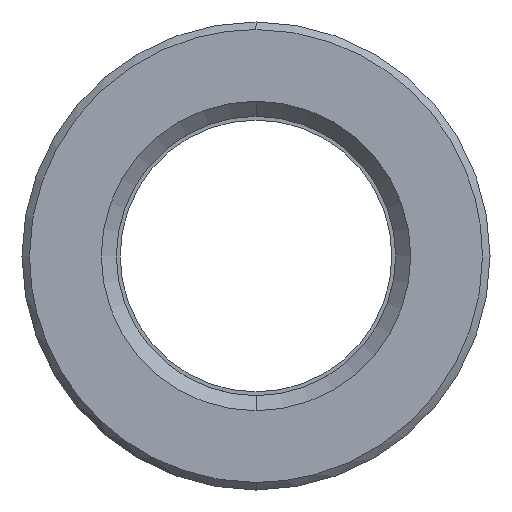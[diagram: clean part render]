
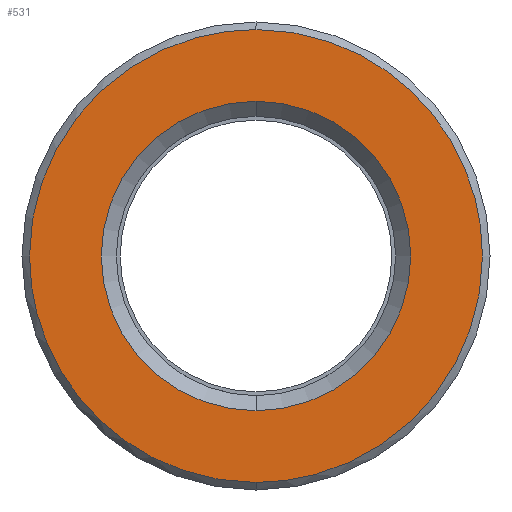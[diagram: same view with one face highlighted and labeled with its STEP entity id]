
A CAD part, left-side view. The second image highlights one B-rep face of the part: STEP entity #531.
In plain terms, the highlighted planar face has unit normal (-1, 0, 0).
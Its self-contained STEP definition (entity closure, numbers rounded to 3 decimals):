
#311=CARTESIAN_POINT('Axis2P3D Location',(0.,0.,0.)) ;
#315=CARTESIAN_POINT('Vertex',(0.,10.25,0.)) ;
#317=CARTESIAN_POINT('Vertex',(0.,0.,10.25)) ;
#320=CARTESIAN_POINT('Axis2P3D Location',(0.,0.,0.)) ;
#324=CARTESIAN_POINT('Vertex',(0.,0.,-10.25)) ;
#351=CARTESIAN_POINT('Axis2P3D Location',(0.,0.,0.)) ;
#355=CARTESIAN_POINT('Vertex',(0.,-10.25,0.)) ;
#358=CARTESIAN_POINT('Axis2P3D Location',(0.,0.,0.)) ;
#438=CARTESIAN_POINT('Axis2P3D Location',(0.,15.,0.)) ;
#444=CARTESIAN_POINT('Control Point',(0.,0.,-15.)) ;
#445=CARTESIAN_POINT('Control Point',(0.,1.359,-15.)) ;
#446=CARTESIAN_POINT('Control Point',(0.,2.718,-14.846)) ;
#447=CARTESIAN_POINT('Control Point',(0.,4.054,-14.538)) ;
#448=CARTESIAN_POINT('Control Point',(0.,6.784,-13.572)) ;
#449=CARTESIAN_POINT('Control Point',(0.,9.211,-11.985)) ;
#450=CARTESIAN_POINT('Control Point',(0.,10.379,-10.99)) ;
#451=CARTESIAN_POINT('Control Point',(0.,12.437,-8.725)) ;
#452=CARTESIAN_POINT('Control Point',(0.,13.866,-6.019)) ;
#453=CARTESIAN_POINT('Control Point',(0.,14.405,-4.583)) ;
#454=CARTESIAN_POINT('Control Point',(0.,14.829,-2.782)) ;
#455=CARTESIAN_POINT('Control Point',(0.,14.975,-0.952)) ;
#456=CARTESIAN_POINT('Control Point',(0.,14.992,-0.635)) ;
#457=CARTESIAN_POINT('Control Point',(0.,15.,-0.317)) ;
#458=CARTESIAN_POINT('Control Point',(0.,15.,0.)) ;
#459=CARTESIAN_POINT('Vertex',(0.,0.,-15.)) ;
#461=CARTESIAN_POINT('Vertex',(0.,15.,0.)) ;
#465=CARTESIAN_POINT('Control Point',(0.,-15.,0.)) ;
#466=CARTESIAN_POINT('Control Point',(0.,-15.,-1.518)) ;
#467=CARTESIAN_POINT('Control Point',(0.,-14.808,-3.036)) ;
#468=CARTESIAN_POINT('Control Point',(0.,-14.424,-4.521)) ;
#469=CARTESIAN_POINT('Control Point',(0.,-13.289,-7.363)) ;
#470=CARTESIAN_POINT('Control Point',(0.,-11.481,-9.832)) ;
#471=CARTESIAN_POINT('Control Point',(0.,-10.425,-10.945)) ;
#472=CARTESIAN_POINT('Control Point',(0.,-8.055,-12.881)) ;
#473=CARTESIAN_POINT('Control Point',(0.,-5.278,-14.165)) ;
#474=CARTESIAN_POINT('Control Point',(0.,-3.815,-14.627)) ;
#475=CARTESIAN_POINT('Control Point',(0.,-2.152,-14.927)) ;
#476=CARTESIAN_POINT('Control Point',(0.,-0.476,-14.994)) ;
#477=CARTESIAN_POINT('Control Point',(0.,-0.317,-14.998)) ;
#478=CARTESIAN_POINT('Control Point',(0.,-0.159,-15.)) ;
#479=CARTESIAN_POINT('Control Point',(0.,0.,-15.)) ;
#480=CARTESIAN_POINT('Vertex',(0.,-15.,0.)) ;
#484=CARTESIAN_POINT('Control Point',(0.,0.,15.)) ;
#485=CARTESIAN_POINT('Control Point',(0.,-1.359,15.)) ;
#486=CARTESIAN_POINT('Control Point',(0.,-2.718,14.846)) ;
#487=CARTESIAN_POINT('Control Point',(0.,-4.054,14.538)) ;
#488=CARTESIAN_POINT('Control Point',(0.,-6.784,13.572)) ;
#489=CARTESIAN_POINT('Control Point',(0.,-9.211,11.985)) ;
#490=CARTESIAN_POINT('Control Point',(0.,-10.379,10.99)) ;
#491=CARTESIAN_POINT('Control Point',(0.,-12.437,8.725)) ;
#492=CARTESIAN_POINT('Control Point',(0.,-13.866,6.019)) ;
#493=CARTESIAN_POINT('Control Point',(0.,-14.405,4.583)) ;
#494=CARTESIAN_POINT('Control Point',(0.,-14.829,2.782)) ;
#495=CARTESIAN_POINT('Control Point',(0.,-14.975,0.952)) ;
#496=CARTESIAN_POINT('Control Point',(0.,-14.992,0.635)) ;
#497=CARTESIAN_POINT('Control Point',(0.,-15.,0.317)) ;
#498=CARTESIAN_POINT('Control Point',(0.,-15.,0.)) ;
#499=CARTESIAN_POINT('Vertex',(0.,0.,15.)) ;
#503=CARTESIAN_POINT('Control Point',(0.,15.,0.)) ;
#504=CARTESIAN_POINT('Control Point',(0.,15.,1.518)) ;
#505=CARTESIAN_POINT('Control Point',(0.,14.808,3.036)) ;
#506=CARTESIAN_POINT('Control Point',(0.,14.424,4.521)) ;
#507=CARTESIAN_POINT('Control Point',(0.,13.289,7.363)) ;
#508=CARTESIAN_POINT('Control Point',(0.,11.481,9.832)) ;
#509=CARTESIAN_POINT('Control Point',(0.,10.425,10.945)) ;
#510=CARTESIAN_POINT('Control Point',(0.,8.055,12.881)) ;
#511=CARTESIAN_POINT('Control Point',(0.,5.278,14.165)) ;
#512=CARTESIAN_POINT('Control Point',(0.,3.815,14.627)) ;
#513=CARTESIAN_POINT('Control Point',(0.,2.152,14.927)) ;
#514=CARTESIAN_POINT('Control Point',(0.,0.476,14.994)) ;
#515=CARTESIAN_POINT('Control Point',(0.,0.317,14.998)) ;
#516=CARTESIAN_POINT('Control Point',(0.,0.159,15.)) ;
#517=CARTESIAN_POINT('Control Point',(0.,0.,15.)) ;
#312=DIRECTION('Axis2P3D Direction',(-1.,0.,0.)) ;
#321=DIRECTION('Axis2P3D Direction',(-1.,0.,0.)) ;
#352=DIRECTION('Axis2P3D Direction',(-1.,0.,0.)) ;
#359=DIRECTION('Axis2P3D Direction',(-1.,0.,0.)) ;
#439=DIRECTION('Axis2P3D Direction',(-1.,0.,0.)) ;
#440=DIRECTION('Axis2P3D XDirection',(0.,0.,1.)) ;
#313=AXIS2_PLACEMENT_3D('Circle Axis2P3D',#311,#312,$) ;
#322=AXIS2_PLACEMENT_3D('Circle Axis2P3D',#320,#321,$) ;
#353=AXIS2_PLACEMENT_3D('Circle Axis2P3D',#351,#352,$) ;
#360=AXIS2_PLACEMENT_3D('Circle Axis2P3D',#358,#359,$) ;
#441=AXIS2_PLACEMENT_3D('Plane Axis2P3D',#438,#439,#440) ;
#520=ORIENTED_EDGE('',*,*,#463,.F.) ;
#521=ORIENTED_EDGE('',*,*,#482,.F.) ;
#522=ORIENTED_EDGE('',*,*,#501,.F.) ;
#523=ORIENTED_EDGE('',*,*,#518,.F.) ;
#526=ORIENTED_EDGE('',*,*,#319,.T.) ;
#527=ORIENTED_EDGE('',*,*,#362,.T.) ;
#528=ORIENTED_EDGE('',*,*,#357,.T.) ;
#529=ORIENTED_EDGE('',*,*,#326,.T.) ;
#530=FACE_BOUND('',#525,.T.) ;
#531=ADVANCED_FACE('553-18X116',(#524,#530),#442,.T.) ;
#443=B_SPLINE_CURVE_WITH_KNOTS('',5,(#444,#445,#446,#447,#448,#449,#450,#451,#452,#453,#454,#455,#456,#457,#458),.UNSPECIFIED.,.F.,.U.,(6,3,3,3,6),(33.321,42.932,53.665,64.398,66.642),.UNSPECIFIED.) ;
#464=B_SPLINE_CURVE_WITH_KNOTS('',5,(#465,#466,#467,#468,#469,#470,#471,#472,#473,#474,#475,#476,#477,#478,#479),.UNSPECIFIED.,.F.,.U.,(6,3,3,3,6),(0.,10.733,21.466,32.199,33.321),.UNSPECIFIED.) ;
#483=B_SPLINE_CURVE_WITH_KNOTS('',5,(#484,#485,#486,#487,#488,#489,#490,#491,#492,#493,#494,#495,#496,#497,#498),.UNSPECIFIED.,.F.,.U.,(6,3,3,3,6),(33.321,42.932,53.665,64.398,66.642),.UNSPECIFIED.) ;
#502=B_SPLINE_CURVE_WITH_KNOTS('',5,(#503,#504,#505,#506,#507,#508,#509,#510,#511,#512,#513,#514,#515,#516,#517),.UNSPECIFIED.,.F.,.U.,(6,3,3,3,6),(0.,10.733,21.466,32.199,33.321),.UNSPECIFIED.) ;
#314=CIRCLE('generated circle',#313,10.25) ;
#323=CIRCLE('generated circle',#322,10.25) ;
#354=CIRCLE('generated circle',#353,10.25) ;
#361=CIRCLE('generated circle',#360,10.25) ;
#319=EDGE_CURVE('',#316,#318,#314,.F.) ;
#326=EDGE_CURVE('',#325,#316,#323,.F.) ;
#357=EDGE_CURVE('',#356,#325,#354,.F.) ;
#362=EDGE_CURVE('',#318,#356,#361,.F.) ;
#463=EDGE_CURVE('',#460,#462,#443,.T.) ;
#482=EDGE_CURVE('',#481,#460,#464,.T.) ;
#501=EDGE_CURVE('',#500,#481,#483,.T.) ;
#518=EDGE_CURVE('',#462,#500,#502,.T.) ;
#519=EDGE_LOOP('',(#520,#521,#522,#523)) ;
#525=EDGE_LOOP('',(#526,#527,#528,#529)) ;
#524=FACE_OUTER_BOUND('',#519,.T.) ;
#442=PLANE('Plane',#441) ;
#316=VERTEX_POINT('',#315) ;
#318=VERTEX_POINT('',#317) ;
#325=VERTEX_POINT('',#324) ;
#356=VERTEX_POINT('',#355) ;
#460=VERTEX_POINT('',#459) ;
#462=VERTEX_POINT('',#461) ;
#481=VERTEX_POINT('',#480) ;
#500=VERTEX_POINT('',#499) ;
